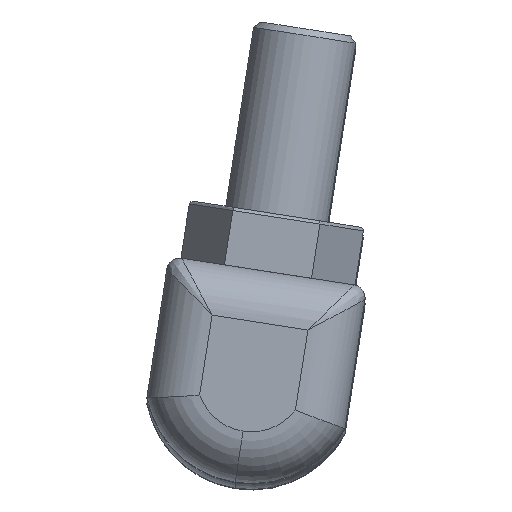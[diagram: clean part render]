
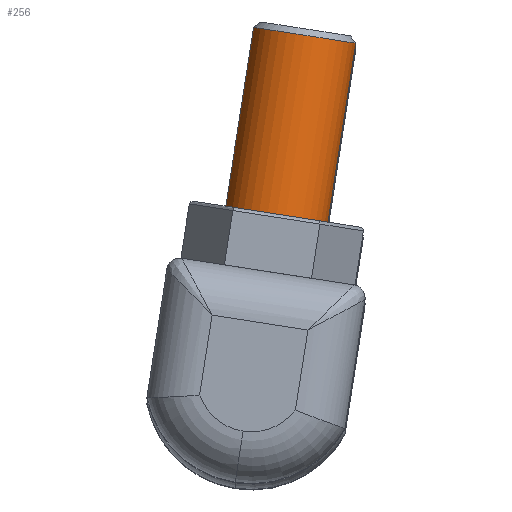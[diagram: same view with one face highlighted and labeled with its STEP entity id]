
A CAD part, top view. The second image highlights one B-rep face of the part: STEP entity #256.
In plain terms, the highlighted cylindrical face has radius 4 mm (diameter 8 mm), a partial arc.
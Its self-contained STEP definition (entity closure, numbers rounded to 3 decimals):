
#3 = VECTOR ( 'NONE', #540, 1000. ) ;
#184 = CARTESIAN_POINT ( 'NONE',  ( 4., 19., -27.25 ) ) ;
#256 = ADVANCED_FACE ( 'NONE', ( #1415 ), #1401, .T. ) ;
#285 = DIRECTION ( 'NONE',  ( -1., 0., 0. ) ) ;
#302 = VECTOR ( 'NONE', #1844, 1000. ) ;
#303 = DIRECTION ( 'NONE',  ( 1., 0., 0. ) ) ;
#320 = DIRECTION ( 'NONE',  ( -1., 0., 0. ) ) ;
#375 = VERTEX_POINT ( 'NONE', #920 ) ;
#385 = AXIS2_PLACEMENT_3D ( 'NONE', #1032, #676, #303 ) ;
#400 = EDGE_CURVE ( 'NONE', #667, #375, #2190, .T. ) ;
#540 = DIRECTION ( 'NONE',  ( 0., 0., 1. ) ) ;
#564 = VERTEX_POINT ( 'NONE', #2269 ) ;
#667 = VERTEX_POINT ( 'NONE', #1542 ) ;
#676 = DIRECTION ( 'NONE',  ( 0., 0., 1. ) ) ;
#724 = AXIS2_PLACEMENT_3D ( 'NONE', #1622, #2171, #320 ) ;
#796 = EDGE_LOOP ( 'NONE', ( #1607, #1907, #1789, #867 ) ) ;
#867 = ORIENTED_EDGE ( 'NONE', *, *, #400, .F. ) ;
#920 = CARTESIAN_POINT ( 'NONE',  ( 4., 19., -12.75 ) ) ;
#985 = EDGE_CURVE ( 'NONE', #564, #1575, #1681, .T. ) ;
#1001 = CARTESIAN_POINT ( 'NONE',  ( 0., 19., -26.75 ) ) ;
#1022 = DIRECTION ( 'NONE',  ( 0., 0., 1. ) ) ;
#1032 = CARTESIAN_POINT ( 'NONE',  ( 0., 19., -27.25 ) ) ;
#1113 = CARTESIAN_POINT ( 'NONE',  ( -4., 19., -27.25 ) ) ;
#1159 = AXIS2_PLACEMENT_3D ( 'NONE', #1001, #1022, #285 ) ;
#1401 = CYLINDRICAL_SURFACE ( 'NONE', #385, 4. ) ;
#1415 = FACE_OUTER_BOUND ( 'NONE', #796, .T. ) ;
#1427 = EDGE_CURVE ( 'NONE', #1575, #375, #1558, .T. ) ;
#1542 = CARTESIAN_POINT ( 'NONE',  ( 4., 19., -26.75 ) ) ;
#1558 = CIRCLE ( 'NONE', #724, 4. ) ;
#1575 = VERTEX_POINT ( 'NONE', #2243 ) ;
#1607 = ORIENTED_EDGE ( 'NONE', *, *, #2121, .T. ) ;
#1622 = CARTESIAN_POINT ( 'NONE',  ( 0., 19., -12.75 ) ) ;
#1681 = LINE ( 'NONE', #1113, #302 ) ;
#1769 = CIRCLE ( 'NONE', #1159, 4. ) ;
#1789 = ORIENTED_EDGE ( 'NONE', *, *, #1427, .T. ) ;
#1844 = DIRECTION ( 'NONE',  ( 0., 0., 1. ) ) ;
#1907 = ORIENTED_EDGE ( 'NONE', *, *, #985, .T. ) ;
#2121 = EDGE_CURVE ( 'NONE', #667, #564, #1769, .T. ) ;
#2171 = DIRECTION ( 'NONE',  ( 0., 0., -1. ) ) ;
#2190 = LINE ( 'NONE', #184, #3 ) ;
#2243 = CARTESIAN_POINT ( 'NONE',  ( -4., 19., -12.75 ) ) ;
#2269 = CARTESIAN_POINT ( 'NONE',  ( -4., 19., -26.75 ) ) ;
